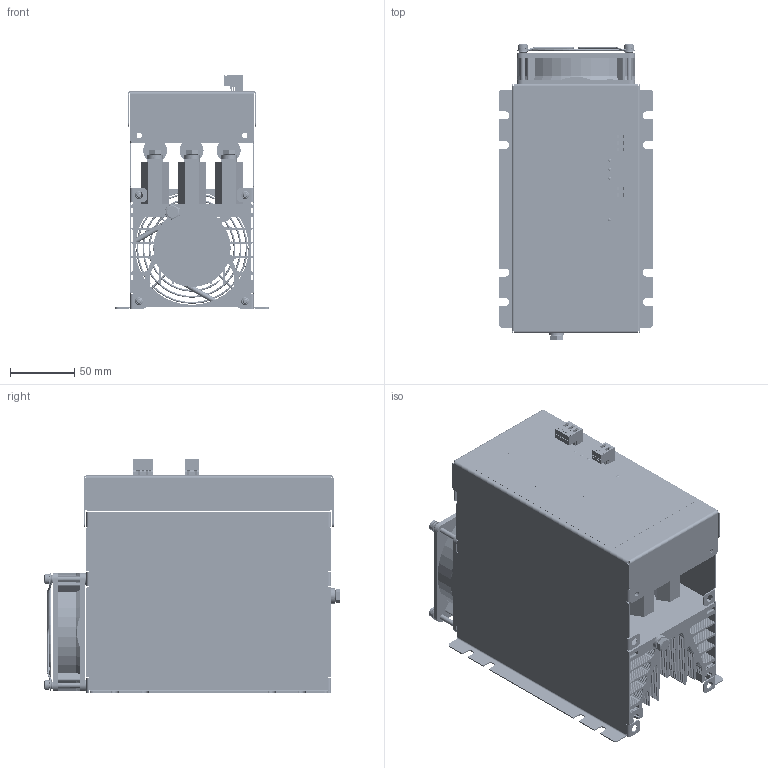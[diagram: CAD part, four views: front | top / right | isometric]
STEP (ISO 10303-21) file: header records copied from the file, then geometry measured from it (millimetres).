
FILE_DESCRIPTION(('STEP AP203'), '1');
FILE_NAME('ÌÒÊ 26-100-480 ÓÕË4', '2025-05-20T13:01:44', (''), ('ÎÎÎ "Ìåàíäð"'), 'C3D Converter', 'C3D Toolkit', '');
FILE_SCHEMA(('CONFIG_CONTROL_DESIGN'));
Length unit declared in the file: millimetre
Products named in the file (3): МТК; Болт М6х14; 26-100-480
Assembly tree (11 placements, depth 2):
  МТК
    Болт М6х14  x10
    26-100-480
Bounding box: 120 x 230.24 x 181.05 mm (x, y, z)
Volume: 719473.6 mm3; surface area: 542237.7 mm2
Topology: 12 solids, 22 shells, 7797 faces, 22876 edges, 15225 vertices
Faces by surface type: plane 4314, cylinder 2290, extrusion 950, bspline 107, torus 72, cone 52, sphere 12
Full cylindrical faces by diameter (mm): 1.414 x4, 3.3 x4, 3.9 x5, 4 x8, 4.2 x4, 4.3 x12, 5 x4, 6 x24, 6.1 x12, 6.4 x10, 8 x4, 8.9 x10, 9 x8, 9.1 x1, 10.01 x1, 12 x10, 14 x3, 18.5 x6, 43.5 x1, 88 x1
Entity records: 308345 total; most frequent: CARTESIAN_POINT 72074, ORIENTED_EDGE 43202, DIRECTION 37679, EDGE_CURVE 21601, VECTOR 15533, LINE 14583, VERTEX_POINT 14456, AXIS2_PLACEMENT_3D 11073
